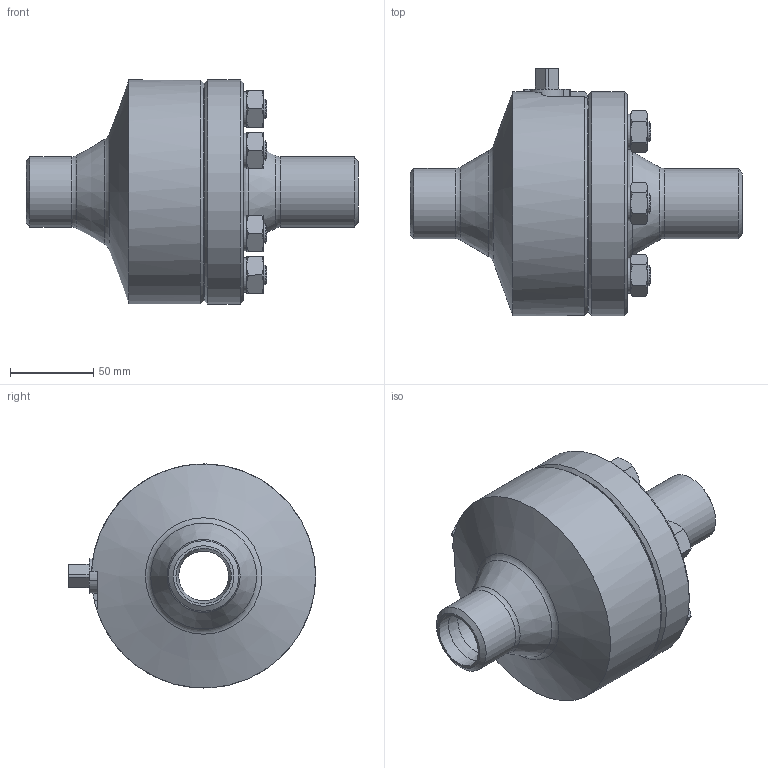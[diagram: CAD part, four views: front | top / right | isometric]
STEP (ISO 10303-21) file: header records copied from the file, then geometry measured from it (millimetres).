
FILE_DESCRIPTION((''),'2;1');
FILE_NAME('C:\Users\Bartek\Desktop\Nowy folder (2)\Nowy folder (22)\WK5bc DN32 PN100_Substitute_1.stp','2024-09-16T15:03:20',('Bartek'),(''),'Autodesk Inventor 2012','Autodesk Inventor 2012','');
FILE_SCHEMA(('AUTOMOTIVE_DESIGN { 1 0 10303 214 1 1 1 1 }'));
Length unit declared in the file: millimetre
Products named in the file (1): WK5bc DN32 PN100_Substitute_1
Bounding box: 200 x 149 x 135 mm (x, y, z)
Volume: 1174279.1 mm3; surface area: 115219.4 mm2
Topology: 1 solids, 1 shells, 201 faces, 442 edges, 265 vertices
Faces by surface type: cone 88, plane 77, cylinder 32, torus 4
Full cylindrical faces by diameter (mm): 12 x6, 21 x6, 30 x1, 33.4 x2, 42.4 x2, 75 x1, 135 x1
Entity records: 5305 total; most frequent: CARTESIAN_POINT 1193, DIRECTION 798, ORIENTED_EDGE 794, EDGE_CURVE 397, AXIS2_PLACEMENT_3D 353, EDGE_LOOP 263, VERTEX_POINT 258, STYLED_ITEM 202
